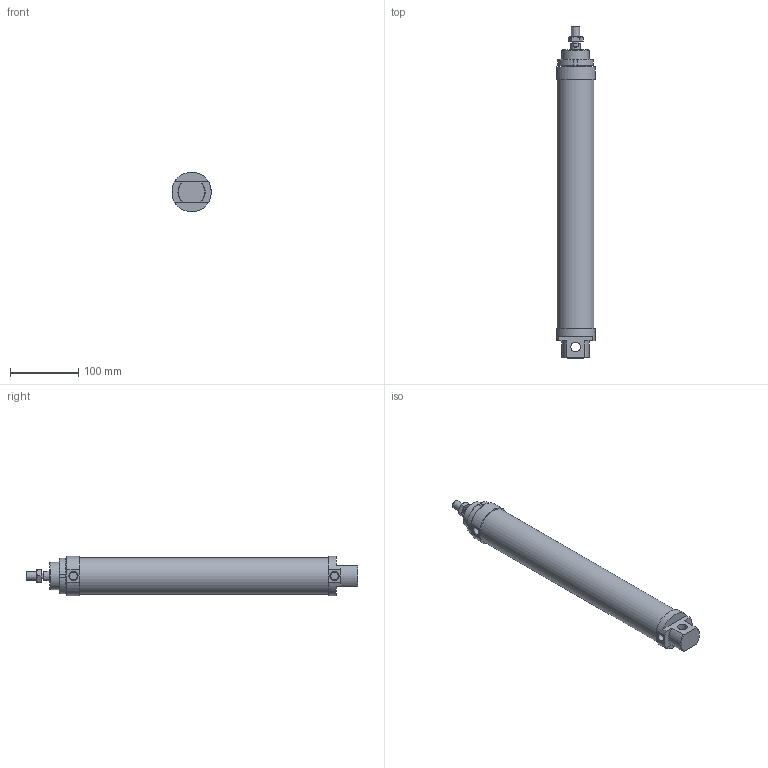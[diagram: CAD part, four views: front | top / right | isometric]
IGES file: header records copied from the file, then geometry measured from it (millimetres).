
Global section: file name: No Iges File Name specified; native system: AutoDesk Inventor R6.0; preprocessor: AutoDesk Inventor Iges Exporter R6.0; author: No Author specified; organization: No Organization specified; date: 20030402.145039; units: millimetre
Bounding box: 56.51 x 487 x 58 mm (x, y, z)
Surface area: 121440.5 mm2 (no closed solid volume)
Topology: 0 solids, 0 shells, 94 faces, 413 edges, 395 vertices
Faces by surface type: plane 44, revolution 39, bspline 11
